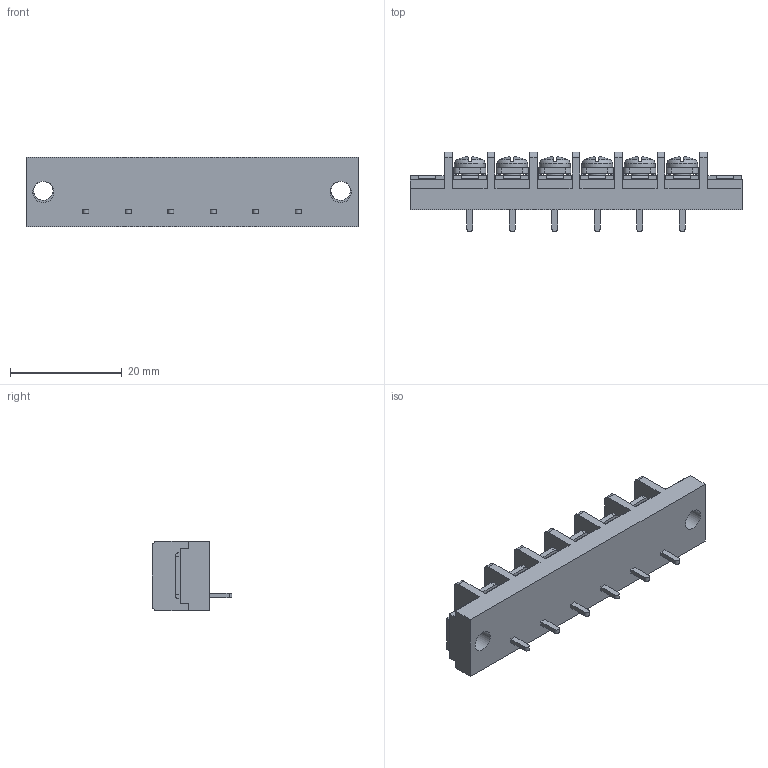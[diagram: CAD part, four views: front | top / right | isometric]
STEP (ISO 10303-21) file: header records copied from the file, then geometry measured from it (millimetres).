
FILE_DESCRIPTION(/* description */ ('Alibre Inc.'),/* implementation_level */ '2;1');
FILE_NAME(/* name */ 'export0',/* time_stamp */ '2015-10-26T17:31:27+09:00',/* author */ (''),/* organization */ (''),/* preprocessor_version */ 'ST-DEVELOPER v14',/* originating_system */ 'Alibre',/* authorisation */ '');
FILE_SCHEMA (('CONFIG_CONTROL_DESIGN'));
Length unit declared in the file: centimetre
Products named in the file (1): ID_1
Bounding box: 59.54 x 14.3 x 12.5 mm (x, y, z)
Volume: 5005.3 mm3; surface area: 4561.5 mm2
Topology: 1 solids, 17 shells, 1024 faces, 2774 edges, 1830 vertices
Faces by surface type: plane 790, bspline 104, cylinder 82, cone 24, torus 12, sphere 12
Full cylindrical faces by diameter (mm): 3 x6, 3.5 x2, 3.8 x2, 5.5 x6
Entity records: 30587 total; most frequent: CARTESIAN_POINT 6895, ORIENTED_EDGE 5436, DIRECTION 3656, EDGE_CURVE 2718, VECTOR 1976, LINE 1976, VERTEX_POINT 1802, AXIS2_PLACEMENT_3D 1197
